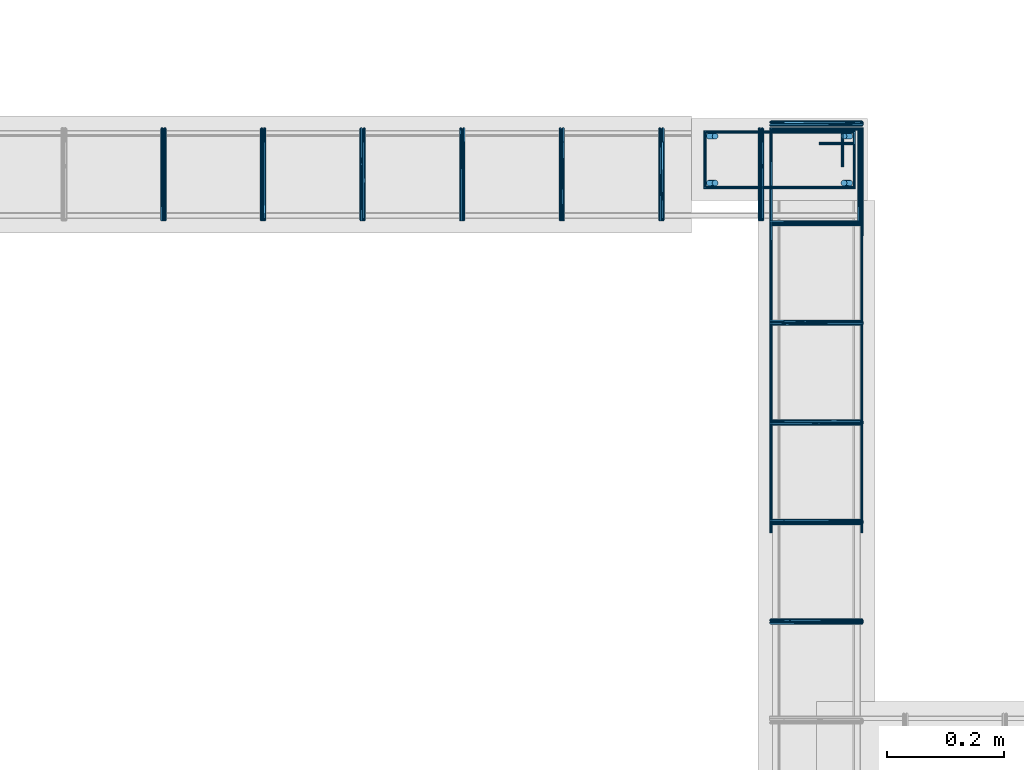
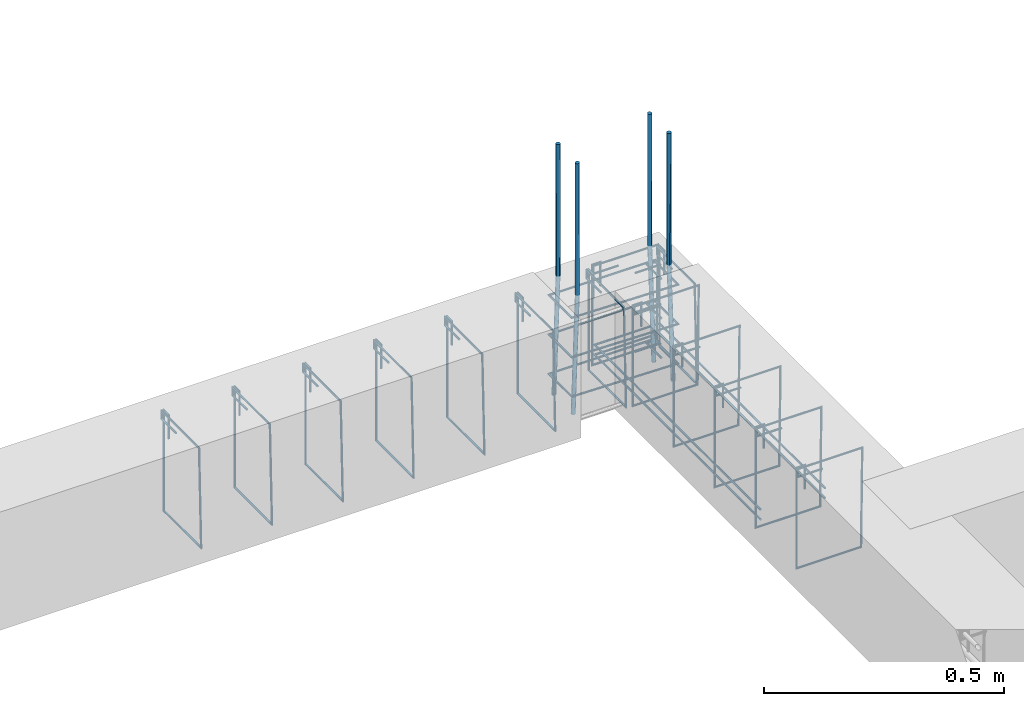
# One storey, part 126 of 150: 23 reinforcing bars.
"""IFC4 building model written with IfcOpenShell, lengths in centimetres."""

from ifc_helpers import new_model, entity, si_unit, derived_unit, frame, origin_with_axes, place, context, project, spatial, source, transform, mapped, element, save


model = new_model("IFC4")

# Units and contexts
model_context = context("Model", 3, precision=1e-05, world=origin_with_axes(), identifier="Body")
ifc_project = project(units=[si_unit("LENGTHUNIT", "METRE", prefix="CENTI"), si_unit("VOLUMEUNIT", "CUBIC_METRE"), si_unit("AREAUNIT", "SQUARE_METRE"), si_unit("POWERUNIT", "WATT"), si_unit("LUMINOUSFLUXUNIT", "LUMEN"), si_unit("ELECTRICCURRENTUNIT", "AMPERE"), si_unit("PRESSUREUNIT", "PASCAL", prefix="KILO"), si_unit("MASSUNIT", "GRAM", prefix="KILO"), si_unit("PLANEANGLEUNIT", "RADIAN"), derived_unit("VOLUMETRICFLOWRATEUNIT", [(si_unit("LENGTHUNIT", "METRE"), 3), (si_unit("TIMEUNIT", "SECOND"), -1)])], contexts=[model_context])

# Site, building, storey
site_placement = place(None, frame((-4000.0, 0.0, 0.0), z_axis=(0.0, 0.0, 1.0), x_axis=(1.0, 0.0, 0.0)))
site = spatial("IfcSite", under=ifc_project, at=site_placement, Name="PADRÃO")
building_placement = place(site_placement, frame((0.0, 0.0, -14.0)))
building = spatial("IfcBuilding", under=site, at=building_placement, Name="CRECHE PRÉ-ESCOLA TIPO 2")
placement = place(building_placement, origin_with_axes())
storey_placement = place(placement, frame((0.0, 0.0, 30.0), z_axis=(0.0, 0.0, 1.0), x_axis=(1.0, 0.0, 0.0)))
storey = spatial("IfcBuildingStorey", under=building, at=storey_placement, Name="VIGA BALDRAME", CompositionType="ELEMENT", Elevation=16.0)

# Reinforcing bars
shared_shape_1 = source(origin_with_axes(), model_context, "Body", "AdvancedSweptSolid", [
    entity("IfcSweptDiskSolid", entity("IfcCompositeCurve", [entity("IfcCompositeCurveSegment", "CONTINUOUS", True, entity("IfcPolyline", [entity("IfcCartesianPoint", [4.25, 21.75, 0.0]), entity("IfcCartesianPoint", [4.25, 27.75, 0.0])])), entity("IfcCompositeCurveSegment", "CONTINUOUS", True, entity("IfcPolyline", [entity("IfcCartesianPoint", [4.25, 27.75, 0.0]), entity("IfcCartesianPoint", [2.25, 27.75, 0.0])])), entity("IfcCompositeCurveSegment", "CONTINUOUS", True, entity("IfcPolyline", [entity("IfcCartesianPoint", [2.25, 27.75, 0.0]), entity("IfcCartesianPoint", [2.25, 2.25, 0.0])])), entity("IfcCompositeCurveSegment", "CONTINUOUS", True, entity("IfcPolyline", [entity("IfcCartesianPoint", [2.25, 2.25, 0.0]), entity("IfcCartesianPoint", [11.75, 2.25, 0.0])])), entity("IfcCompositeCurveSegment", "CONTINUOUS", True, entity("IfcPolyline", [entity("IfcCartesianPoint", [11.75, 2.25, 0.0]), entity("IfcCartesianPoint", [11.75, 27.75, -0.5])])), entity("IfcCompositeCurveSegment", "CONTINUOUS", True, entity("IfcPolyline", [entity("IfcCartesianPoint", [11.75, 27.75, -0.5]), entity("IfcCartesianPoint", [2.25, 27.75, -0.5])])), entity("IfcCompositeCurveSegment", "CONTINUOUS", True, entity("IfcPolyline", [entity("IfcCartesianPoint", [2.25, 27.75, -0.5]), entity("IfcCartesianPoint", [2.25, 25.75, -0.5])])), entity("IfcCompositeCurveSegment", "CONTINUOUS", True, entity("IfcPolyline", [entity("IfcCartesianPoint", [2.25, 25.75, -0.5]), entity("IfcCartesianPoint", [8.25, 25.75, -0.5])]))], False), 0.25),
])
for number, where, z_axis, x_axis, name in (
    (1, (1094.71, 4092.0, -5.0), (0.0, 0.0, 1.0), (0.0, -1.0, 0.0), "P19 - Estribo"),
    (2, (1094.71, 4092.0, -15.0), (0.0, 0.0, 1.0), (0.0, -1.0, 0.0), "P19 - Estribo"),
    (3, (1094.71, 4092.0, -25.0), (0.0, 0.0, 1.0), (0.0, -1.0, 0.0), "P19 - Estribo"),
):
    element("IfcReinforcingBar", number, at=place(storey_placement, frame(where, z_axis=z_axis, x_axis=x_axis)), inside=storey, Name=name, BarLength=0.0, CrossSectionArea=1.9634954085e-05, NominalDiameter=0.5, PredefinedType="MAIN", context=model_context, shape_type="MappedRepresentation", body=[
        mapped(shared_shape_1, transform((0.0, 0.0, 0.0), scale=1.0)),
    ])
shared_shape_2 = source(origin_with_axes(), model_context, "Body", "AdvancedSweptSolid", [
    entity("IfcSweptDiskSolid", entity("IfcCompositeCurve", [entity("IfcCompositeCurveSegment", "CONTINUOUS", True, entity("IfcPolyline", [entity("IfcCartesianPoint", [2.0, -6.0, 0.0]), entity("IfcCartesianPoint", [2.0, 0.0, 0.0])])), entity("IfcCompositeCurveSegment", "CONTINUOUS", True, entity("IfcPolyline", [entity("IfcCartesianPoint", [2.0, 0.0, 0.0]), entity("IfcCartesianPoint", [0.0, 0.0, 0.0])])), entity("IfcCompositeCurveSegment", "CONTINUOUS", True, entity("IfcPolyline", [entity("IfcCartesianPoint", [0.0, 0.0, 0.0]), entity("IfcCartesianPoint", [0.0, -25.5, 0.0])])), entity("IfcCompositeCurveSegment", "CONTINUOUS", True, entity("IfcPolyline", [entity("IfcCartesianPoint", [0.0, -25.5, 0.0]), entity("IfcCartesianPoint", [15.5, -25.5, 0.0])])), entity("IfcCompositeCurveSegment", "CONTINUOUS", True, entity("IfcPolyline", [entity("IfcCartesianPoint", [15.5, -25.5, 0.0]), entity("IfcCartesianPoint", [15.5, 0.0, 0.5])])), entity("IfcCompositeCurveSegment", "CONTINUOUS", True, entity("IfcPolyline", [entity("IfcCartesianPoint", [15.5, 0.0, 0.5]), entity("IfcCartesianPoint", [0.0, 0.0, 0.5])])), entity("IfcCompositeCurveSegment", "CONTINUOUS", True, entity("IfcPolyline", [entity("IfcCartesianPoint", [0.0, 0.0, 0.5]), entity("IfcCartesianPoint", [0.0, -2.0, 0.5])])), entity("IfcCompositeCurveSegment", "CONTINUOUS", True, entity("IfcPolyline", [entity("IfcCartesianPoint", [0.0, -2.0, 0.5]), entity("IfcCartesianPoint", [6.0, -2.0, 0.5])]))], False), 0.25),
])
for number, where, z_axis, x_axis, name in (
    (4, (1072.78, 4090.24, -2.25), (-1.0, 0.0, 0.0), (0.0, -1.0, 0.0), "V102 - Estribo"),
    (5, (1089.78, 4090.24, -2.25), (-1.0, 0.0, 0.0), (0.0, -1.0, 0.0), "V102 - Estribo"),
    (6, (1106.78, 4090.24, -2.25), (-1.0, 0.0, 0.0), (0.0, -1.0, 0.0), "V102 - Estribo"),
    (7, (1123.78, 4090.24, -2.25), (-1.0, 0.0, 0.0), (0.0, -1.0, 0.0), "V102 - Estribo"),
    (8, (1004.78, 4090.24, -2.25), (-1.0, 0.0, 0.0), (0.0, -1.0, 0.0), "V102 - Estribo"),
    (9, (1021.78, 4090.24, -2.25), (-1.0, 0.0, 0.0), (0.0, -1.0, 0.0), "V102 - Estribo"),
    (10, (1038.78, 4090.24, -2.25), (-1.0, 0.0, 0.0), (0.0, -1.0, 0.0), "V102 - Estribo"),
    (11, (1055.78, 4090.24, -2.25), (-1.0, 0.0, 0.0), (0.0, -1.0, 0.0), "V102 - Estribo"),
):
    element("IfcReinforcingBar", number, at=place(storey_placement, frame(where, z_axis=z_axis, x_axis=x_axis)), inside=storey, Name=name, BarLength=0.0, CrossSectionArea=1.9634954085e-05, NominalDiameter=0.5, PredefinedType="MAIN", context=model_context, shape_type="MappedRepresentation", body=[
        mapped(shared_shape_2, transform((0.0, 0.0, 0.0), scale=1.0)),
    ])
shared_shape_3 = source(origin_with_axes(), model_context, "Body", "AdvancedSweptSolid", [
    entity("IfcSweptDiskSolid", entity("IfcCompositeCurve", [entity("IfcCompositeCurveSegment", "CONTINUOUS", True, entity("IfcPolyline", [entity("IfcCartesianPoint", [2.0, -6.0, 0.0]), entity("IfcCartesianPoint", [2.0, 0.0, 0.0])])), entity("IfcCompositeCurveSegment", "CONTINUOUS", True, entity("IfcPolyline", [entity("IfcCartesianPoint", [2.0, 0.0, 0.0]), entity("IfcCartesianPoint", [0.0, 0.0, 0.0])])), entity("IfcCompositeCurveSegment", "CONTINUOUS", True, entity("IfcPolyline", [entity("IfcCartesianPoint", [0.0, 0.0, 0.0]), entity("IfcCartesianPoint", [0.0, -25.5, 0.0])])), entity("IfcCompositeCurveSegment", "CONTINUOUS", True, entity("IfcPolyline", [entity("IfcCartesianPoint", [0.0, -25.5, 0.0]), entity("IfcCartesianPoint", [15.5, -25.5, 0.0])])), entity("IfcCompositeCurveSegment", "CONTINUOUS", True, entity("IfcPolyline", [entity("IfcCartesianPoint", [15.5, -25.5, 0.0]), entity("IfcCartesianPoint", [15.5, 0.0, 0.5])])), entity("IfcCompositeCurveSegment", "CONTINUOUS", True, entity("IfcPolyline", [entity("IfcCartesianPoint", [15.5, 0.0, 0.5]), entity("IfcCartesianPoint", [0.0, 0.0, 0.5])])), entity("IfcCompositeCurveSegment", "CONTINUOUS", True, entity("IfcPolyline", [entity("IfcCartesianPoint", [0.0, 0.0, 0.5]), entity("IfcCartesianPoint", [0.0, -2.0, 0.5])])), entity("IfcCompositeCurveSegment", "CONTINUOUS", True, entity("IfcPolyline", [entity("IfcCartesianPoint", [0.0, -2.0, 0.5]), entity("IfcCartesianPoint", [6.0, -2.0, 0.5])]))], False), 0.25),
])
for number, where, z_axis, x_axis, name in (
    (12, (1108.25, 4006.39, -2.25), (0.0, -1.0, 0.0), (1.0, 0.0, 0.0), "V185 - Estribo"),
    (13, (1108.25, 4023.39, -2.25), (0.0, -1.0, 0.0), (1.0, 0.0, 0.0), "V185 - Estribo"),
    (14, (1108.25, 4040.39, -2.25), (0.0, -1.0, 0.0), (1.0, 0.0, 0.0), "V185 - Estribo"),
    (15, (1108.25, 4057.39, -2.25), (0.0, -1.0, 0.0), (1.0, 0.0, 0.0), "V185 - Estribo"),
    (16, (1108.25, 4074.39, -2.25), (0.0, -1.0, 0.0), (1.0, 0.0, 0.0), "V185 - Estribo"),
    (17, (1108.25, 4091.39, -2.25), (0.0, -1.0, 0.0), (1.0, 0.0, 0.0), "V185 - Estribo"),
):
    element("IfcReinforcingBar", number, at=place(storey_placement, frame(where, z_axis=z_axis, x_axis=x_axis)), inside=storey, Name=name, BarLength=0.0, CrossSectionArea=1.9634954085e-05, NominalDiameter=0.5, PredefinedType="MAIN", context=model_context, shape_type="MappedRepresentation", body=[
        mapped(shared_shape_3, transform((0.0, 0.0, 0.0), scale=1.0)),
    ])
shared_shape_4 = source(origin_with_axes(), model_context, "Body", "AdvancedSweptSolid", [
    entity("IfcSweptDiskSolid", entity("IfcCompositeCurve", [entity("IfcCompositeCurveSegment", "CONTINUOUS", True, entity("IfcPolyline", [entity("IfcCartesianPoint", [0.0, 0.0, 0.0]), entity("IfcCartesianPoint", [0.0, 68.9569359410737, 0.0])])), entity("IfcCompositeCurveSegment", "CONTINUOUS", True, entity("IfcPolyline", [entity("IfcCartesianPoint", [0.0, 68.9569359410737, 0.0]), entity("IfcCartesianPoint", [-15.5, 68.9569359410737, 0.0])])), entity("IfcCompositeCurveSegment", "CONTINUOUS", True, entity("IfcPolyline", [entity("IfcCartesianPoint", [-15.5, 68.9569359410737, 0.0]), entity("IfcCartesianPoint", [-15.5, 0.0, 0.0])]))], False), 0.25),
])
for number, where, z_axis, x_axis, name in (
    (18, (1123.75, 4021.29306405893, -24.375), (0.0, 0.0, 1.0), (1.0, 0.0, 0.0), "V185 - Grampo"),
    (19, (1123.75, 4021.29306405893, -21.875), (0.0, 0.0, 1.0), (1.0, 0.0, 0.0), "V185 - Grampo"),
):
    element("IfcReinforcingBar", number, at=place(storey_placement, frame(where, z_axis=z_axis, x_axis=x_axis)), inside=storey, Name=name, BarLength=0.0, CrossSectionArea=1.9634954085e-05, NominalDiameter=0.5, PredefinedType="MAIN", context=model_context, shape_type="MappedRepresentation", body=[
        mapped(shared_shape_4, transform((0.0, 0.0, 0.0), scale=1.0)),
    ])
for number, where, z_axis, x_axis, name in (
    (20, (1098.21013877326, 4089.0, 33.3573001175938), (0.0, 0.0, 1.0), (1.0, 0.0, 0.0), "P19 - Longitudinal"),
    (21, (1098.21013877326, 4081.0, 33.3573001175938), (0.0, 0.0, 1.0), (1.0, 0.0, 0.0), "P19 - Longitudinal"),
):
    element("IfcReinforcingBar", number, at=place(storey_placement, frame(where, z_axis=z_axis, x_axis=x_axis)), inside=storey, Name=name, BarLength=0.0, CrossSectionArea=7.853981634e-05, NominalDiameter=1.0, PredefinedType="MAIN", context=model_context, shape_type="AdvancedSweptSolid", body=[
        entity("IfcSweptDiskSolid", entity("IfcCompositeCurve", [entity("IfcCompositeCurveSegment", "CONTINUOUS", True, entity("IfcPolyline", [entity("IfcCartesianPoint", [-0.50013877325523, 0.0, -63.3573001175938]), entity("IfcCartesianPoint", [0.49986122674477, 0.0, -33.3573001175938])])), entity("IfcCompositeCurveSegment", "CONTINUOUS", True, entity("IfcPolyline", [entity("IfcCartesianPoint", [0.49986122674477, 0.0, -33.3573001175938]), entity("IfcCartesianPoint", [0.49986122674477, 0.0, 0.0])]))], False), 0.5),
    ])
for number, where, z_axis, x_axis, name in (
    (22, (1121.20986122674, 4081.0, 33.3573001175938), (0.0, 0.0, 1.0), (1.0, 0.0, 0.0), "P19 - Longitudinal"),
    (23, (1121.20986122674, 4089.0, 33.3573001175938), (0.0, 0.0, 1.0), (1.0, 0.0, 0.0), "P19 - Longitudinal"),
):
    element("IfcReinforcingBar", number, at=place(storey_placement, frame(where, z_axis=z_axis, x_axis=x_axis)), inside=storey, Name=name, BarLength=0.0, CrossSectionArea=7.853981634e-05, NominalDiameter=1.0, PredefinedType="MAIN", context=model_context, shape_type="AdvancedSweptSolid", body=[
        entity("IfcSweptDiskSolid", entity("IfcCompositeCurve", [entity("IfcCompositeCurveSegment", "CONTINUOUS", True, entity("IfcPolyline", [entity("IfcCartesianPoint", [0.50013877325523, 0.0, -63.3573001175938]), entity("IfcCartesianPoint", [-0.49986122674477, 0.0, -33.3573001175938])])), entity("IfcCompositeCurveSegment", "CONTINUOUS", True, entity("IfcPolyline", [entity("IfcCartesianPoint", [-0.49986122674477, 0.0, -33.3573001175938]), entity("IfcCartesianPoint", [-0.49986122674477, 0.0, 0.0])]))], False), 0.5),
    ])

save(model, "model.ifc")
